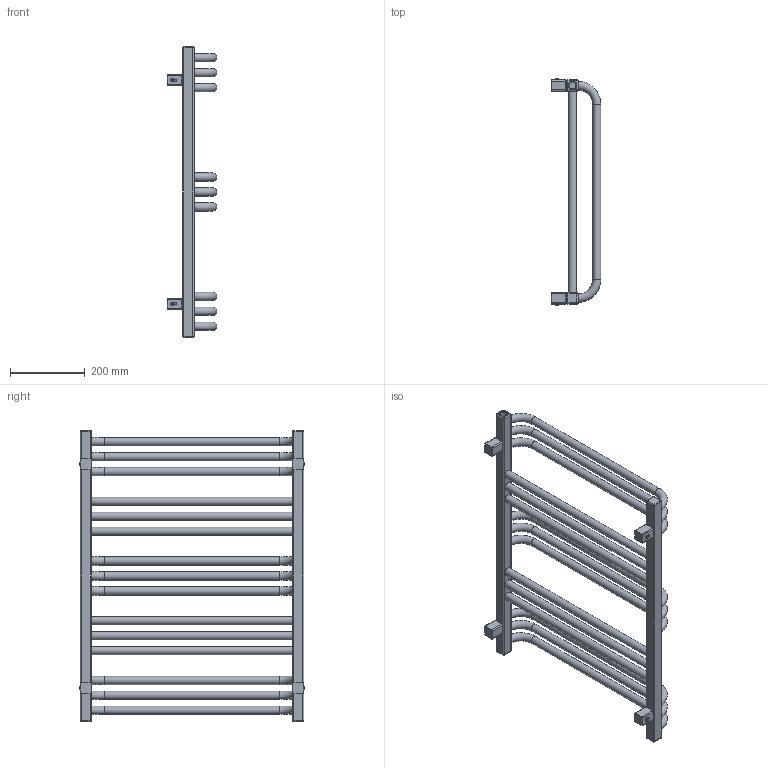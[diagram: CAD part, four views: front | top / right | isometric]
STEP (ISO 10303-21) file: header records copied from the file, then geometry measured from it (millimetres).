
FILE_DESCRIPTION((''),'2;1');
FILE_NAME('Z:\R\G\P\RGP097 - Grzejnik Poll 2012 (ALFA)\Work\Inventor\Marketing\Modele AutoCAD\PLL-780-600 S5.stp','2012-06-29T12:45:29',('KurKa'),(''),'Autodesk Inventor 2012','Autodesk Inventor 2012','');
FILE_SCHEMA(('AUTOMOTIVE_DESIGN { 1 0 10303 214 1 1 1 1 }'));
Length unit declared in the file: millimetre
Products named in the file (3): PLL-780-600 S5; MMT42_marketing
Assembly tree (5 placements, depth 2):
  PLL-780-600 S5
    PLL-780-600 S5
    MMT42_marketing  x4
Bounding box: 133 x 606 x 780 mm (x, y, z)
Volume: 4898378.4 mm3; surface area: 815823.3 mm2
Topology: 5 solids, 5 shells, 274 faces, 640 edges, 389 vertices
Faces by surface type: plane 115, cylinder 90, cone 27, torus 26, sphere 16
Full cylindrical faces by diameter (mm): 4.509 x4, 12 x4, 18.631 x3, 22 x15
Entity records: 3705 total; most frequent: DIRECTION 688, CARTESIAN_POINT 611, ORIENTED_EDGE 512, AXIS2_PLACEMENT_3D 289, EDGE_CURVE 256, EDGE_LOOP 220, VERTEX_POINT 172, CIRCLE 142
